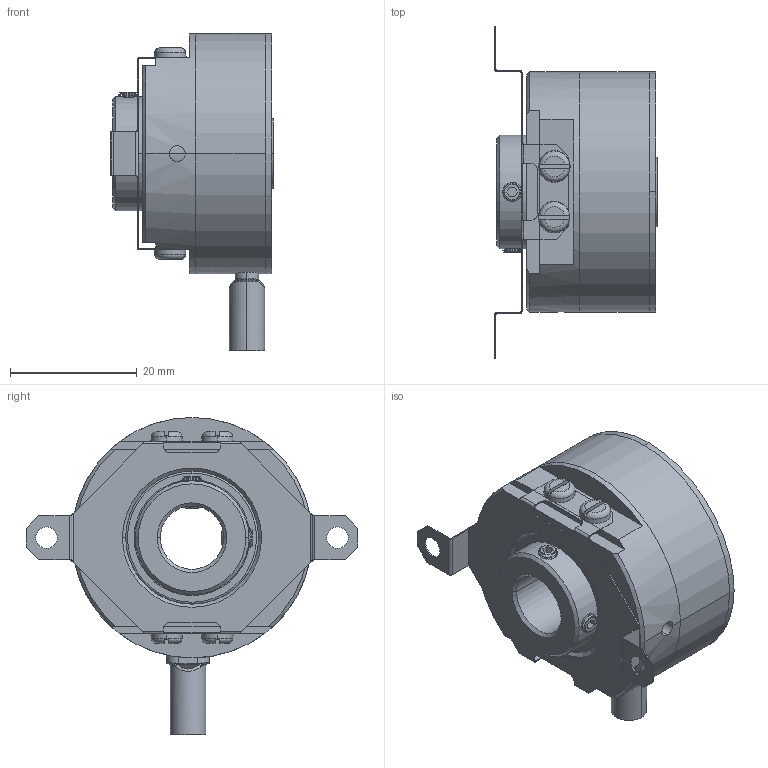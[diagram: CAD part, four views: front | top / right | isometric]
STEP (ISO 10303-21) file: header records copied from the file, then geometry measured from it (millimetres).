
FILE_DESCRIPTION (( 'STEP AP214' ), '1' );
FILE_NAME ('ﾋﾈﾐ-238ﾀ.STEP', '2017-05-23T08:51:55', ( '' ), ( '' ), 'SwSTEP 2.0', 'SolidWorks 2013', '' );
FILE_SCHEMA (( 'AUTOMOTIVE_DESIGN' ));
Length unit declared in the file: millimetre
Products named in the file (1): ﾋﾈﾐ-238ﾀ
Bounding box: 25.71 x 52.47 x 50.11 mm (x, y, z)
Surface area: 9431.7 mm2 (no closed solid volume)
Topology: 0 solids, 29 shells, 280 faces, 850 edges, 578 vertices
Faces by surface type: plane 133, cylinder 68, cone 43, torus 18, bspline 18
Entity records: 13403 total; most frequent: CARTESIAN_POINT 2805, DIRECTION 1594, ORIENTED_EDGE 1421, EDGE_CURVE 850, AXIS2_PLACEMENT_3D 620, VERTEX_POINT 578, CIRCLE 357, VECTOR 354
